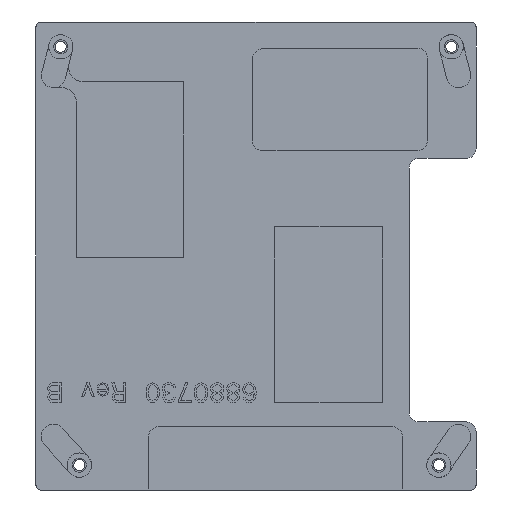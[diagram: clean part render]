
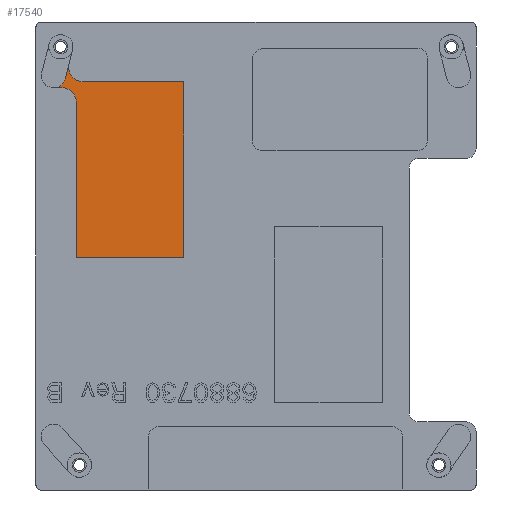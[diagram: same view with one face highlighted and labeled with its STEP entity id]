
A CAD part, front view. The second image highlights one B-rep face of the part: STEP entity #17540.
In plain terms, the highlighted planar face has unit normal (0, -1, 0).
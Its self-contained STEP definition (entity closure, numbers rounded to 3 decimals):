
#248=DIRECTION('',(0.246,0.,0.969));
#249=VECTOR('',#248,3.149);
#250=CARTESIAN_POINT('',(-39.072,-1.1,36.38));
#251=LINE('',#250,#249);
#252=CARTESIAN_POINT('',(-35.389,-1.1,38.694));
#253=DIRECTION('',(0.,1.,0.));
#254=DIRECTION('',(0.,0.,-1.));
#255=AXIS2_PLACEMENT_3D('',#252,#253,#254);
#6186=CARTESIAN_POINT('',(-41.495,-1.1,36.995));
#6187=DIRECTION('',(0.,-1.,0.));
#6188=DIRECTION('',(0.,0.,-1.));
#6189=AXIS2_PLACEMENT_3D('',#6186,#6187,#6188);
#6191=DIRECTION('',(1.,0.,0.));
#6192=VECTOR('',#6191,20.587);
#6193=CARTESIAN_POINT('',(-35.389,-1.1,35.694));
#6194=LINE('',#6193,#6192);
#6195=DIRECTION('',(1.,0.,0.));
#6196=VECTOR('',#6195,1.693);
#6197=CARTESIAN_POINT('',(-41.495,-1.1,34.495));
#6198=LINE('',#6197,#6196);
#6211=DIRECTION('',(0.,0.,1.));
#6212=VECTOR('',#6211,36.);
#6213=CARTESIAN_POINT('',(-14.802,-1.1,-0.306));
#6214=LINE('',#6213,#6212);
#6219=DIRECTION('',(1.,0.,0.));
#6220=VECTOR('',#6219,22.);
#6221=CARTESIAN_POINT('',(-36.802,-1.1,-0.306));
#6222=LINE('',#6221,#6220);
#6231=DIRECTION('',(0.,0.,-1.));
#6232=VECTOR('',#6231,31.801);
#6233=CARTESIAN_POINT('',(-36.802,-1.1,31.495));
#6234=LINE('',#6233,#6232);
#6235=CARTESIAN_POINT('',(-39.802,-1.1,31.495));
#6236=DIRECTION('',(0.,1.,0.));
#6237=DIRECTION('',(0.,0.,1.));
#6238=AXIS2_PLACEMENT_3D('',#6235,#6236,#6237);
#6699=CARTESIAN_POINT('',(-14.802,-1.1,-0.306));
#6700=CARTESIAN_POINT('',(-14.802,-1.1,35.694));
#6701=VERTEX_POINT('',#6699);
#6702=VERTEX_POINT('',#6700);
#6703=CARTESIAN_POINT('',(-36.802,-1.1,-0.306));
#6704=VERTEX_POINT('',#6703);
#8538=CARTESIAN_POINT('',(-41.495,-1.1,34.495));
#8540=VERTEX_POINT('',#8538);
#8542=CARTESIAN_POINT('',(-36.802,-1.1,31.495));
#8544=VERTEX_POINT('',#8542);
#8547=CARTESIAN_POINT('',(-39.802,-1.1,34.495));
#8548=VERTEX_POINT('',#8547);
#8550=CARTESIAN_POINT('',(-38.297,-1.1,39.432));
#8552=VERTEX_POINT('',#8550);
#8555=CARTESIAN_POINT('',(-35.389,-1.1,35.694));
#8556=VERTEX_POINT('',#8555);
#8557=CARTESIAN_POINT('',(-39.072,-1.1,36.38));
#8558=VERTEX_POINT('',#8557);
#17518=CARTESIAN_POINT('',(0.,-1.1,0.));
#17519=DIRECTION('',(0.,-1.,0.));
#17520=DIRECTION('',(1.,0.,0.));
#17521=AXIS2_PLACEMENT_3D('',#17518,#17519,#17520);
#17522=PLANE('',#17521);
#17523=ORIENTED_EDGE('',*,*,#17506,.T.);
#17524=ORIENTED_EDGE('',*,*,#8983,.T.);
#17525=ORIENTED_EDGE('',*,*,#9005,.F.);
#17527=ORIENTED_EDGE('',*,*,#17526,.T.);
#17529=ORIENTED_EDGE('',*,*,#17528,.F.);
#17531=ORIENTED_EDGE('',*,*,#17530,.F.);
#17533=ORIENTED_EDGE('',*,*,#17532,.F.);
#17535=ORIENTED_EDGE('',*,*,#17534,.F.);
#17537=ORIENTED_EDGE('',*,*,#17536,.F.);
#17538=EDGE_LOOP('',(#17523,#17524,#17525,#17527,#17529,#17531,#17533,#17535,
#17537));
#17539=FACE_OUTER_BOUND('',#17538,.F.);
#17540=ADVANCED_FACE('',(#17539),#17522,.T.);
#256=CIRCLE('',#255,3.);
#6190=CIRCLE('',#6189,2.5);
#6239=CIRCLE('',#6238,3.);
#8983=EDGE_CURVE('',#8558,#8552,#251,.T.);
#9005=EDGE_CURVE('',#8556,#8552,#256,.T.);
#17506=EDGE_CURVE('',#8540,#8558,#6190,.T.);
#17526=EDGE_CURVE('',#8556,#6702,#6194,.T.);
#17528=EDGE_CURVE('',#6701,#6702,#6214,.T.);
#17530=EDGE_CURVE('',#6704,#6701,#6222,.T.);
#17532=EDGE_CURVE('',#8544,#6704,#6234,.T.);
#17534=EDGE_CURVE('',#8548,#8544,#6239,.T.);
#17536=EDGE_CURVE('',#8540,#8548,#6198,.T.);
